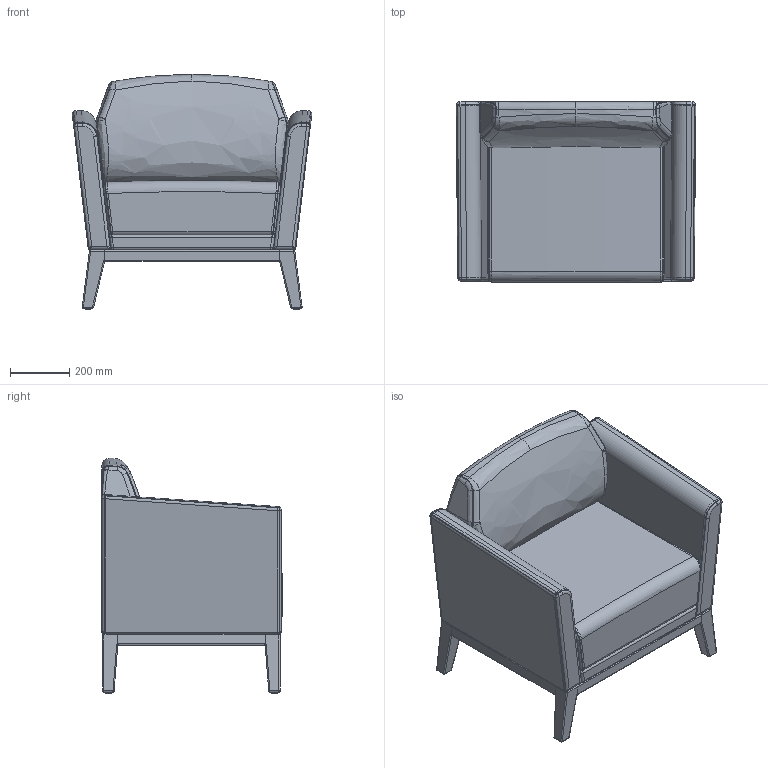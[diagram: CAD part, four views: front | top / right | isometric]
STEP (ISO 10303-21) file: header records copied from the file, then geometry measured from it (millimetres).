
FILE_DESCRIPTION(/* description */ (''),/* implementation_level */ '2;1');
FILE_NAME(/* name */ '2311_Wood.step',/* time_stamp */ '2026-07-28T15:19:39-07:00',/* author */ (''),/* organization */ (''),/* preprocessor_version */ 'ST-DEVELOPER v20.1',/* originating_system */ 'Autodesk Translation Framework v15.8.0.0',/* authorisation */ '');
FILE_SCHEMA (('AUTOMOTIVE_DESIGN { 1 0 10303 214 3 1 1 }'));
Length unit declared in the file: inch
Products named in the file (2): BREEZE Lounge High Back_Allmodels; Breeze Wood Base V2 v6
Assembly tree (1 placements, depth 2):
  BREEZE Lounge High Back_Allmodels
    Breeze Wood Base V2 v6
Bounding box: 809.54 x 610.24 x 794.48 mm (x, y, z)
Volume: 156537816.4 mm3; surface area: 5342802.1 mm2
Topology: 25 solids, 25 shells, 670 faces, 1461 edges, 837 vertices
Faces by surface type: cylinder 224, bspline 202, plane 150, torus 50, sphere 44
Full cylindrical faces by diameter (mm): 12.7 x16, 19.05 x4
Entity records: 27162 total; most frequent: CARTESIAN_POINT 13499, ORIENTED_EDGE 2890, DIRECTION 2637, EDGE_CURVE 1445, AXIS2_PLACEMENT_3D 1089, VERTEX_POINT 837, EDGE_LOOP 686, FACE_OUTER_BOUND 670
